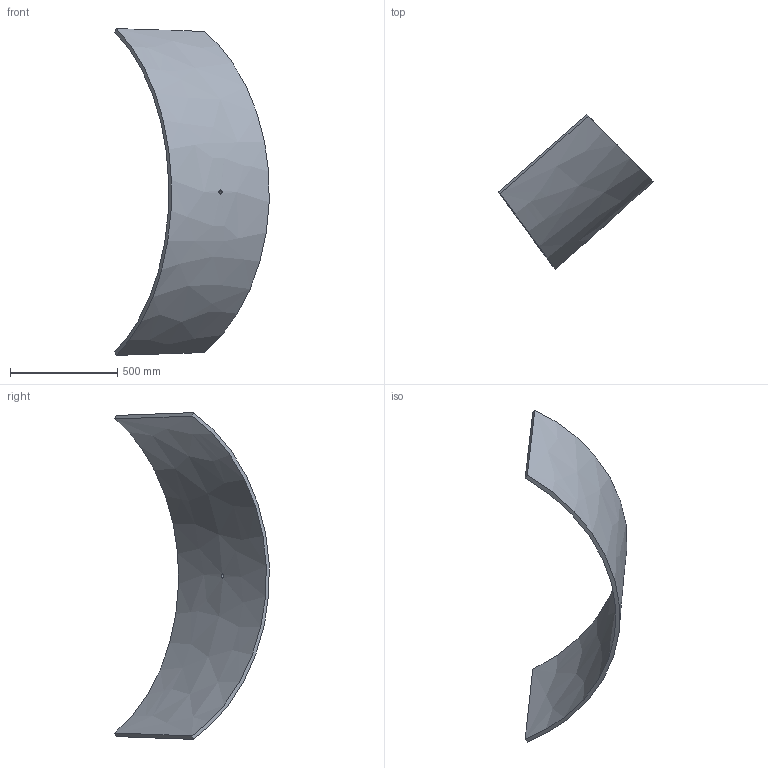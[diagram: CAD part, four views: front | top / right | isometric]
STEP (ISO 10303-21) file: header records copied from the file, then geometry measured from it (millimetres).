
FILE_DESCRIPTION (( 'STEP AP214' ), '1' );
FILE_NAME ('Section 9-B.STEP', '2025-01-09T19:43:29', ( '' ), ( '' ), 'SwSTEP 2.0', 'SolidWorks 2024', '' );
FILE_SCHEMA (( 'AUTOMOTIVE_DESIGN' ));
Length unit declared in the file: inch
Products named in the file (1): Section 9-B
Bounding box: 719.39 x 719.34 x 1522.72 mm (x, y, z)
Volume: 20228721.8 mm3; surface area: 2214189.8 mm2
Topology: 1 solids, 1 shells, 7 faces, 15 edges, 10 vertices
Faces by surface type: bspline 6, cylinder 1
Full cylindrical faces by diameter (mm): 19.431 x1
Entity records: 521 total; most frequent: CARTESIAN_POINT 384, ORIENTED_EDGE 28, B_SPLINE_CURVE_WITH_KNOTS 14, EDGE_CURVE 14, VERTEX_POINT 10, EDGE_LOOP 10, FACE_OUTER_BOUND 8, ADVANCED_FACE 7
